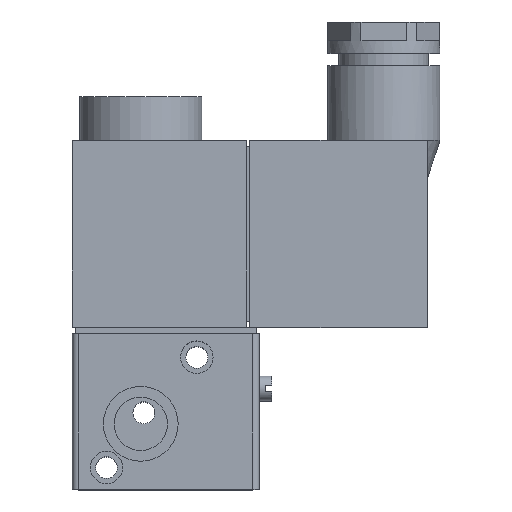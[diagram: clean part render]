
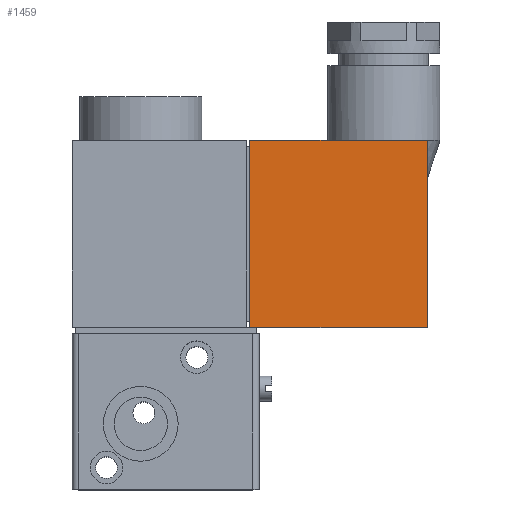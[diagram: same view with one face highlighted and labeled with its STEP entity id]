
A CAD part, top view. The second image highlights one B-rep face of the part: STEP entity #1459.
In plain terms, the highlighted planar face has unit normal (0, 0, 1).
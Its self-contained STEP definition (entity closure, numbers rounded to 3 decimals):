
#163=FACE_OUTER_BOUND('',#276,.T.);
#276=EDGE_LOOP('',(#1218,#1219,#1220,#1221));
#362=LINE('',#2430,#483);
#392=LINE('',#2494,#513);
#394=LINE('',#2500,#515);
#395=LINE('',#2502,#516);
#483=VECTOR('',#1992,1000.);
#513=VECTOR('',#2046,1000.);
#515=VECTOR('',#2054,1000.);
#516=VECTOR('',#2057,1000.);
#692=VERTEX_POINT('',#2427);
#693=VERTEX_POINT('',#2429);
#713=VERTEX_POINT('',#2488);
#715=VERTEX_POINT('',#2492);
#856=EDGE_CURVE('',#692,#693,#362,.T.);
#887=EDGE_CURVE('',#713,#715,#392,.T.);
#891=EDGE_CURVE('',#692,#713,#394,.T.);
#892=EDGE_CURVE('',#693,#715,#395,.T.);
#1218=ORIENTED_EDGE('',*,*,#887,.T.);
#1219=ORIENTED_EDGE('',*,*,#892,.F.);
#1220=ORIENTED_EDGE('',*,*,#856,.F.);
#1221=ORIENTED_EDGE('',*,*,#891,.T.);
#1375=PLANE('',#1674);
#1459=ADVANCED_FACE('',(#163),#1375,.F.);
#1674=AXIS2_PLACEMENT_3D('',#2501,#2055,#2056);
#1992=DIRECTION('',(0.,-1.,0.));
#2046=DIRECTION('',(0.,-1.,0.));
#2054=DIRECTION('',(-1.,0.,0.));
#2055=DIRECTION('center_axis',(0.,0.,-1.));
#2056=DIRECTION('ref_axis',(-1.,0.,0.));
#2057=DIRECTION('',(-1.,0.,0.));
#2427=CARTESIAN_POINT('',(57.,30.,22.));
#2429=CARTESIAN_POINT('',(57.,0.,22.));
#2430=CARTESIAN_POINT('',(57.,30.,22.));
#2488=CARTESIAN_POINT('',(28.5,30.,22.));
#2492=CARTESIAN_POINT('',(28.5,0.,22.));
#2494=CARTESIAN_POINT('',(28.5,30.,22.));
#2500=CARTESIAN_POINT('',(57.,30.,22.));
#2501=CARTESIAN_POINT('Origin',(57.,30.,22.));
#2502=CARTESIAN_POINT('',(57.,0.,22.));
